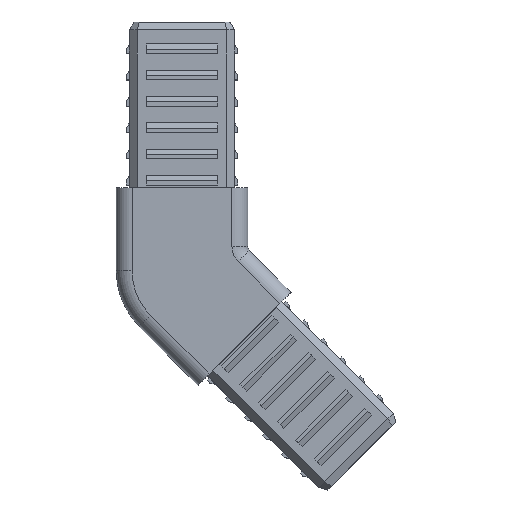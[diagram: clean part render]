
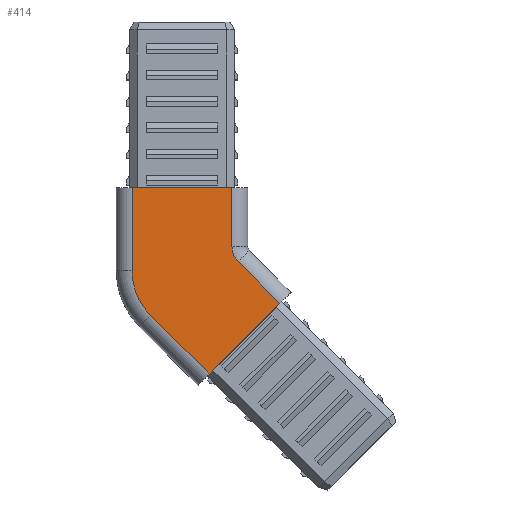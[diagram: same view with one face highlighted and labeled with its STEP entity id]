
A CAD part, top view. The second image highlights one B-rep face of the part: STEP entity #414.
In plain terms, the highlighted planar face has unit normal (0, 0, 1).
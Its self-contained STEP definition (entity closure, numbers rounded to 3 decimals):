
#5 = CARTESIAN_POINT ( 'NONE',  ( 9.5, 17.5, 12.5 ) ) ;
#124 = DIRECTION ( 'NONE',  ( 0., 0., -1. ) ) ;
#290 = ORIENTED_EDGE ( 'NONE', *, *, #3167, .T. ) ;
#351 = VECTOR ( 'NONE', #4419, 1000. ) ;
#414 = ADVANCED_FACE ( 'NONE', ( #6183 ), #1520, .F. ) ;
#469 = DIRECTION ( 'NONE',  ( -1., 0., 0. ) ) ;
#485 = ORIENTED_EDGE ( 'NONE', *, *, #5792, .T. ) ;
#711 = CARTESIAN_POINT ( 'NONE',  ( 0., 0., 12.5 ) ) ;
#812 = VERTEX_POINT ( 'NONE', #4382 ) ;
#1048 = CARTESIAN_POINT ( 'NONE',  ( 9.5, 6.27, 12.5 ) ) ;
#1316 = VERTEX_POINT ( 'NONE', #1972 ) ;
#1513 = EDGE_CURVE ( 'NONE', #5647, #5431, #2524, .T. ) ;
#1520 = PLANE ( 'NONE',  #8570 ) ;
#1696 = LINE ( 'NONE', #6713, #6843 ) ;
#1875 = VECTOR ( 'NONE', #2426, 1000. ) ;
#1972 = CARTESIAN_POINT ( 'NONE',  ( 18.613, -4.5, 12.5 ) ) ;
#2397 = AXIS2_PLACEMENT_3D ( 'NONE', #6528, #2776, #469 ) ;
#2426 = DIRECTION ( 'NONE',  ( 0., -1., 0. ) ) ;
#2472 = LINE ( 'NONE', #5178, #351 ) ;
#2524 = LINE ( 'NONE', #4430, #9093 ) ;
#2557 = EDGE_LOOP ( 'NONE', ( #4609, #6379, #9024, #3434, #9462, #8729, #485, #290 ) ) ;
#2736 = AXIS2_PLACEMENT_3D ( 'NONE', #6404, #3367, #9344 ) ;
#2776 = DIRECTION ( 'NONE',  ( 0., 0., 1. ) ) ;
#3167 = EDGE_CURVE ( 'NONE', #812, #4077, #2472, .T. ) ;
#3239 = VERTEX_POINT ( 'NONE', #7454 ) ;
#3253 = EDGE_CURVE ( 'NONE', #1316, #3239, #3753, .T. ) ;
#3367 = DIRECTION ( 'NONE',  ( 0., 0., -1. ) ) ;
#3410 = EDGE_CURVE ( 'NONE', #9275, #8901, #7260, .T. ) ;
#3434 = ORIENTED_EDGE ( 'NONE', *, *, #1513, .T. ) ;
#3585 = LINE ( 'NONE', #5894, #6961 ) ;
#3753 = LINE ( 'NONE', #4653, #4455 ) ;
#3891 = DIRECTION ( 'NONE',  ( -0.707, 0.707, 0. ) ) ;
#4077 = VERTEX_POINT ( 'NONE', #4231 ) ;
#4231 = CARTESIAN_POINT ( 'NONE',  ( 5.178, -17.935, 12.5 ) ) ;
#4382 = CARTESIAN_POINT ( 'NONE',  ( -5.985, -6.772, 12.5 ) ) ;
#4419 = DIRECTION ( 'NONE',  ( 0.707, -0.707, 0. ) ) ;
#4430 = CARTESIAN_POINT ( 'NONE',  ( 9.5, 0., 12.5 ) ) ;
#4455 = VECTOR ( 'NONE', #3891, 1000. ) ;
#4609 = ORIENTED_EDGE ( 'NONE', *, *, #6427, .F. ) ;
#4653 = CARTESIAN_POINT ( 'NONE',  ( 7.056, 7.056, 12.5 ) ) ;
#4999 = CARTESIAN_POINT ( 'NONE',  ( -9.5, 17.5, 12.5 ) ) ;
#5178 = CARTESIAN_POINT ( 'NONE',  ( -6.379, -6.379, 12.5 ) ) ;
#5431 = VERTEX_POINT ( 'NONE', #5 ) ;
#5647 = VERTEX_POINT ( 'NONE', #1048 ) ;
#5792 = EDGE_CURVE ( 'NONE', #8901, #812, #9325, .T. ) ;
#5894 = CARTESIAN_POINT ( 'NONE',  ( 3.056, -20.056, 12.5 ) ) ;
#5950 = DIRECTION ( 'NONE',  ( -1., 0., 0. ) ) ;
#6183 = FACE_OUTER_BOUND ( 'NONE', #2557, .T. ) ;
#6371 = CARTESIAN_POINT ( 'NONE',  ( -9.5, 0., 12.5 ) ) ;
#6379 = ORIENTED_EDGE ( 'NONE', *, *, #3253, .T. ) ;
#6404 = CARTESIAN_POINT ( 'NONE',  ( 13.5, 6.27, 12.5 ) ) ;
#6427 = EDGE_CURVE ( 'NONE', #1316, #4077, #3585, .T. ) ;
#6518 = DIRECTION ( 'NONE',  ( -0.707, -0.707, 0. ) ) ;
#6528 = CARTESIAN_POINT ( 'NONE',  ( 2.5, 1.713, 12.5 ) ) ;
#6552 = DIRECTION ( 'NONE',  ( 0., 1., 0. ) ) ;
#6713 = CARTESIAN_POINT ( 'NONE',  ( -12.5, 17.5, 12.5 ) ) ;
#6843 = VECTOR ( 'NONE', #5950, 1000. ) ;
#6894 = CARTESIAN_POINT ( 'NONE',  ( -9.5, 1.713, 12.5 ) ) ;
#6961 = VECTOR ( 'NONE', #6518, 1000. ) ;
#7156 = CIRCLE ( 'NONE', #2736, 4. ) ;
#7239 = EDGE_CURVE ( 'NONE', #5431, #9275, #1696, .T. ) ;
#7260 = LINE ( 'NONE', #6371, #1875 ) ;
#7454 = CARTESIAN_POINT ( 'NONE',  ( 10.672, 3.441, 12.5 ) ) ;
#8426 = DIRECTION ( 'NONE',  ( -1., 0., 0. ) ) ;
#8570 = AXIS2_PLACEMENT_3D ( 'NONE', #711, #124, #8426 ) ;
#8729 = ORIENTED_EDGE ( 'NONE', *, *, #3410, .T. ) ;
#8901 = VERTEX_POINT ( 'NONE', #6894 ) ;
#9024 = ORIENTED_EDGE ( 'NONE', *, *, #9118, .T. ) ;
#9093 = VECTOR ( 'NONE', #6552, 1000. ) ;
#9118 = EDGE_CURVE ( 'NONE', #3239, #5647, #7156, .T. ) ;
#9275 = VERTEX_POINT ( 'NONE', #4999 ) ;
#9325 = CIRCLE ( 'NONE', #2397, 12. ) ;
#9344 = DIRECTION ( 'NONE',  ( -1., 0., 0. ) ) ;
#9462 = ORIENTED_EDGE ( 'NONE', *, *, #7239, .T. ) ;
